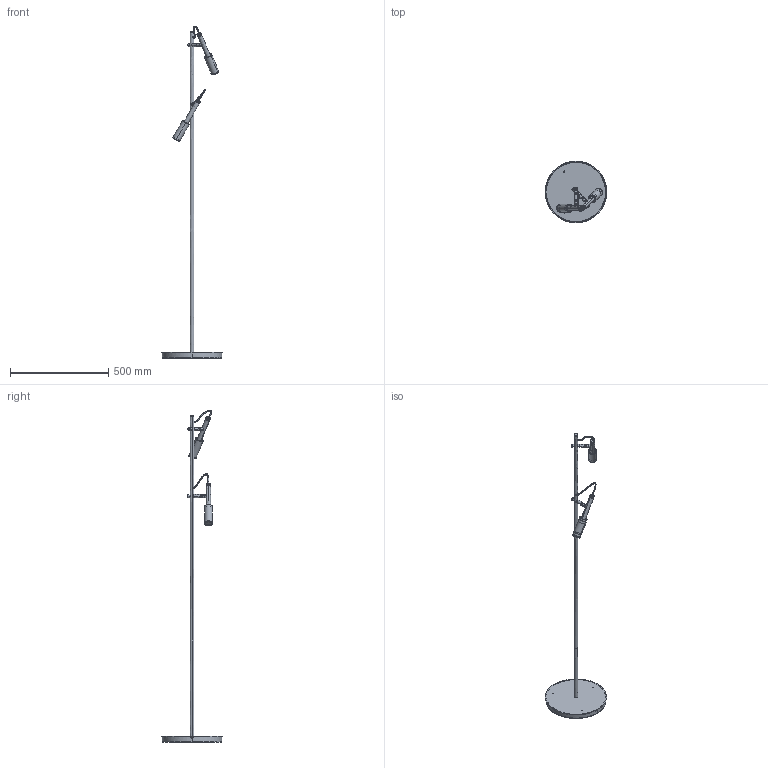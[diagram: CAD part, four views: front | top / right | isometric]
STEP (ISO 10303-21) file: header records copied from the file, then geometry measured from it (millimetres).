
FILE_DESCRIPTION(/* description */ (''),/* implementation_level */ '2;1');
FILE_NAME(/* name */ 'Tubino T073__.002',/* time_stamp */ '2025-05-27T15:30:44+02:00',/* author */ (''),/* organization */ (''),/* preprocessor_version */ 'ST-DEVELOPER v16.5',/* originating_system */ '',/* authorisation */ '');
FILE_SCHEMA (('AUTOMOTIVE_DESIGN'));
Length unit declared in the file: millimetre
Products named in the file (11): Document; 3200.0289000.00 (disco chiusura basamento ACC D 312mm sp 3 con viti)_
3210.0289000.00; 3200.0289001.00 (disco chiusura basamento ACC D 312mm sp 3)_3201.0289
001.00; weld studs for capacitor discharge a gb_GB_FASTENER_BOLT_WSWA M4X25-N; 3200.0298000.00 (scatola basamento ACC D 303mm H 26mm sp 1,2)_3206.02
98000.00; 3200.0286000.00 (stelo tubolare ACC D 20mm sp 1)_3206.0286163.00; 3300.0139000.00 (tubo supporto testa ALL D 22mm H 146mm sp 1,5)_3305.
0139001.00; 3300.0138000.00 (testa cilindrica ALL D 40mm H 100mm)_3306.0138000.00; 3100.0005000.00 (schermo circolare PC sp 0,5)_3104.0005003.00; 3300.0034000.00 (testata di chiusura ALL Ø 20mm H 9mm)_3306.00340
04.00; 3300.0176000.00 (testata di chiusura OTTONE D 17,9mm H 4mm)_3202.0176
000.00
Assembly tree (16 placements, depth 3):
  Document
    3200.0289000.00 (disco chiusura basamento ACC D 312mm sp 3 con viti)_
3210.0289000.00
      3200.0289001.00 (disco chiusura basamento ACC D 312mm sp 3)_3201.0289
001.00
      weld studs for capacitor discharge a gb_GB_FASTENER_BOLT_WSWA M4X25-N  x3
    3200.0298000.00 (scatola basamento ACC D 303mm H 26mm sp 1,2)_3206.02
98000.00
    3200.0286000.00 (stelo tubolare ACC D 20mm sp 1)_3206.0286163.00
    3300.0139000.00 (tubo supporto testa ALL D 22mm H 146mm sp 1,5)_3305.
0139001.00  x2
    3300.0138000.00 (testa cilindrica ALL D 40mm H 100mm)_3306.0138000.00  x2
    3100.0005000.00 (schermo circolare PC sp 0,5)_3104.0005003.00  x2
    3300.0034000.00 (testata di chiusura ALL Ø 20mm H 9mm)_3306.00340
04.00  x2
    3300.0176000.00 (testata di chiusura OTTONE D 17,9mm H 4mm)_3202.0176
000.00
Bounding box: 311.9 x 312 x 1686.03 mm (x, y, z)
Volume: 603577.8 mm3; surface area: 665225.3 mm2
Topology: 23 solids, 23 shells, 667 faces, 1596 edges, 1012 vertices
Faces by surface type: bspline 519, plane 148
Entity records: 30710 total; most frequent: CARTESIAN_POINT 23789, ORIENTED_EDGE 2236, EDGE_CURVE 1118, VERTEX_POINT 710, EDGE_LOOP 562, B_SPLINE_CURVE_WITH_KNOTS 516, ADVANCED_FACE 472, FACE_OUTER_BOUND 472
